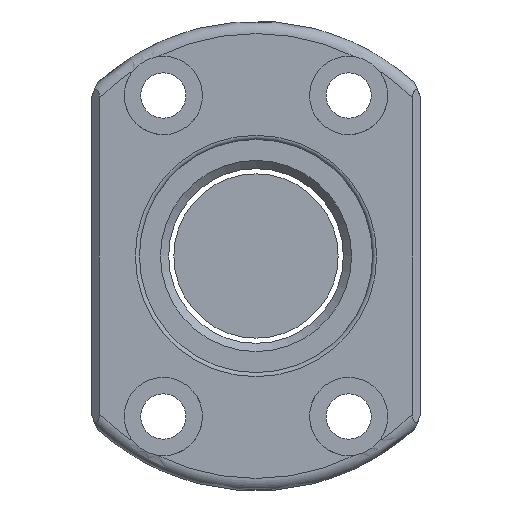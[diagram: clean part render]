
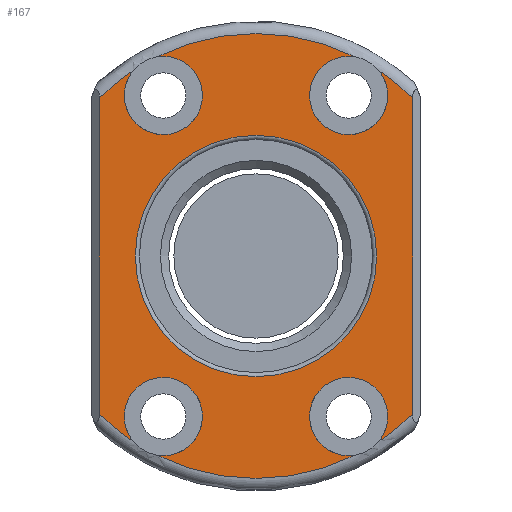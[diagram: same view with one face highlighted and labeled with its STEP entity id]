
A CAD part, front view. The second image highlights one B-rep face of the part: STEP entity #167.
In plain terms, the highlighted planar face has unit normal (0, -1, 0).
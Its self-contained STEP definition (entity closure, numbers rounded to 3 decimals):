
#56=LINE('',#1097,#80);
#57=LINE('',#1109,#81);
#80=VECTOR('',#882,1.);
#81=VECTOR('',#893,1.);
#127=PLANE('',#786);
#167=ADVANCED_FACE('',(#230,#231),#127,.T.);
#230=FACE_BOUND('',#298,.T.);
#231=FACE_BOUND('',#299,.T.);
#298=EDGE_LOOP('',(#382));
#299=EDGE_LOOP('',(#383,#384,#385,#386,#387,#388,#389,#390,#391,#392,#393,
#394));
#382=ORIENTED_EDGE('',*,*,#633,.T.);
#383=ORIENTED_EDGE('',*,*,#634,.T.);
#384=ORIENTED_EDGE('',*,*,#635,.T.);
#385=ORIENTED_EDGE('',*,*,#636,.T.);
#386=ORIENTED_EDGE('',*,*,#637,.F.);
#387=ORIENTED_EDGE('',*,*,#638,.T.);
#388=ORIENTED_EDGE('',*,*,#639,.T.);
#389=ORIENTED_EDGE('',*,*,#640,.T.);
#390=ORIENTED_EDGE('',*,*,#641,.T.);
#391=ORIENTED_EDGE('',*,*,#642,.T.);
#392=ORIENTED_EDGE('',*,*,#643,.F.);
#393=ORIENTED_EDGE('',*,*,#644,.T.);
#394=ORIENTED_EDGE('',*,*,#645,.T.);
#562=VERTEX_POINT('',#1093);
#563=VERTEX_POINT('',#1095);
#564=VERTEX_POINT('',#1096);
#565=VERTEX_POINT('',#1098);
#566=VERTEX_POINT('',#1100);
#567=VERTEX_POINT('',#1102);
#568=VERTEX_POINT('',#1104);
#569=VERTEX_POINT('',#1106);
#570=VERTEX_POINT('',#1108);
#571=VERTEX_POINT('',#1110);
#572=VERTEX_POINT('',#1112);
#573=VERTEX_POINT('',#1114);
#574=VERTEX_POINT('',#1116);
#633=EDGE_CURVE('',#562,#562,#724,.T.);
#634=EDGE_CURVE('',#563,#564,#725,.T.);
#635=EDGE_CURVE('',#564,#565,#56,.T.);
#636=EDGE_CURVE('',#565,#566,#726,.T.);
#637=EDGE_CURVE('',#567,#566,#727,.T.);
#638=EDGE_CURVE('',#567,#568,#728,.T.);
#639=EDGE_CURVE('',#568,#569,#729,.T.);
#640=EDGE_CURVE('',#569,#570,#730,.T.);
#641=EDGE_CURVE('',#570,#571,#57,.T.);
#642=EDGE_CURVE('',#571,#572,#731,.T.);
#643=EDGE_CURVE('',#573,#572,#732,.T.);
#644=EDGE_CURVE('',#573,#574,#733,.T.);
#645=EDGE_CURVE('',#574,#563,#734,.T.);
#724=CIRCLE('',#775,14.65);
#725=CIRCLE('',#776,27.);
#726=CIRCLE('',#777,27.);
#727=CIRCLE('',#778,4.75);
#728=CIRCLE('',#779,27.);
#729=CIRCLE('',#780,4.75);
#730=CIRCLE('',#781,27.);
#731=CIRCLE('',#782,27.);
#732=CIRCLE('',#783,4.75);
#733=CIRCLE('',#784,27.);
#734=CIRCLE('',#785,4.75);
#775=AXIS2_PLACEMENT_3D('',#1092,#878,#879);
#776=AXIS2_PLACEMENT_3D('',#1094,#880,#881);
#777=AXIS2_PLACEMENT_3D('',#1099,#883,#884);
#778=AXIS2_PLACEMENT_3D('',#1101,#885,#886);
#779=AXIS2_PLACEMENT_3D('',#1103,#887,#888);
#780=AXIS2_PLACEMENT_3D('',#1105,#889,#890);
#781=AXIS2_PLACEMENT_3D('',#1107,#891,#892);
#782=AXIS2_PLACEMENT_3D('',#1111,#894,#895);
#783=AXIS2_PLACEMENT_3D('',#1113,#896,#897);
#784=AXIS2_PLACEMENT_3D('',#1115,#898,#899);
#785=AXIS2_PLACEMENT_3D('',#1117,#900,#901);
#786=AXIS2_PLACEMENT_3D('',#1118,#902,#903);
#878=DIRECTION('',(0.,1.,0.));
#879=DIRECTION('',(0.,0.,-1.));
#880=DIRECTION('',(0.,-1.,0.));
#881=DIRECTION('',(0.,0.,-1.));
#882=DIRECTION('',(0.,0.,1.));
#883=DIRECTION('',(0.,-1.,0.));
#884=DIRECTION('',(0.,0.,-1.));
#885=DIRECTION('',(0.,-1.,0.));
#886=DIRECTION('',(1.,0.,0.));
#887=DIRECTION('',(0.,-1.,0.));
#888=DIRECTION('',(0.,0.,-1.));
#889=DIRECTION('',(0.,1.,0.));
#890=DIRECTION('',(-1.,0.,0.));
#891=DIRECTION('',(0.,-1.,0.));
#892=DIRECTION('',(0.,0.,-1.));
#893=DIRECTION('',(0.,0.,-1.));
#894=DIRECTION('',(0.,-1.,0.));
#895=DIRECTION('',(0.,0.,-1.));
#896=DIRECTION('',(0.,-1.,0.));
#897=DIRECTION('',(-1.,0.,0.));
#898=DIRECTION('',(0.,-1.,0.));
#899=DIRECTION('',(0.,0.,-1.));
#900=DIRECTION('',(0.,1.,0.));
#901=DIRECTION('',(1.,0.,0.));
#902=DIRECTION('',(0.,-1.,0.));
#903=DIRECTION('',(0.,0.,-1.));
#1092=CARTESIAN_POINT('',(0.,0.,0.));
#1093=CARTESIAN_POINT('',(0.,0.,-14.65));
#1094=CARTESIAN_POINT('',(0.,0.,0.));
#1095=CARTESIAN_POINT('',(14.916,0.,-22.506));
#1096=CARTESIAN_POINT('',(19.,0.,-19.183));
#1097=CARTESIAN_POINT('',(19.,0.,18.138));
#1098=CARTESIAN_POINT('',(19.,0.,19.183));
#1099=CARTESIAN_POINT('',(0.,0.,0.));
#1100=CARTESIAN_POINT('',(14.916,0.,22.506));
#1101=CARTESIAN_POINT('',(11.25,0.,19.486));
#1102=CARTESIAN_POINT('',(12.032,0.,24.171));
#1103=CARTESIAN_POINT('',(0.,0.,0.));
#1104=CARTESIAN_POINT('',(-12.032,0.,24.171));
#1105=CARTESIAN_POINT('',(-11.25,0.,19.486));
#1106=CARTESIAN_POINT('',(-14.916,0.,22.506));
#1107=CARTESIAN_POINT('',(0.,0.,0.));
#1108=CARTESIAN_POINT('',(-19.,0.,19.183));
#1109=CARTESIAN_POINT('',(-19.,0.,0.));
#1110=CARTESIAN_POINT('',(-19.,0.,-19.183));
#1111=CARTESIAN_POINT('',(0.,0.,0.));
#1112=CARTESIAN_POINT('',(-14.916,0.,-22.506));
#1113=CARTESIAN_POINT('',(-11.25,0.,-19.486));
#1114=CARTESIAN_POINT('',(-12.032,0.,-24.171));
#1115=CARTESIAN_POINT('',(0.,0.,0.));
#1116=CARTESIAN_POINT('',(12.032,0.,-24.171));
#1117=CARTESIAN_POINT('',(11.25,0.,-19.486));
#1118=CARTESIAN_POINT('',(0.,0.,0.));
